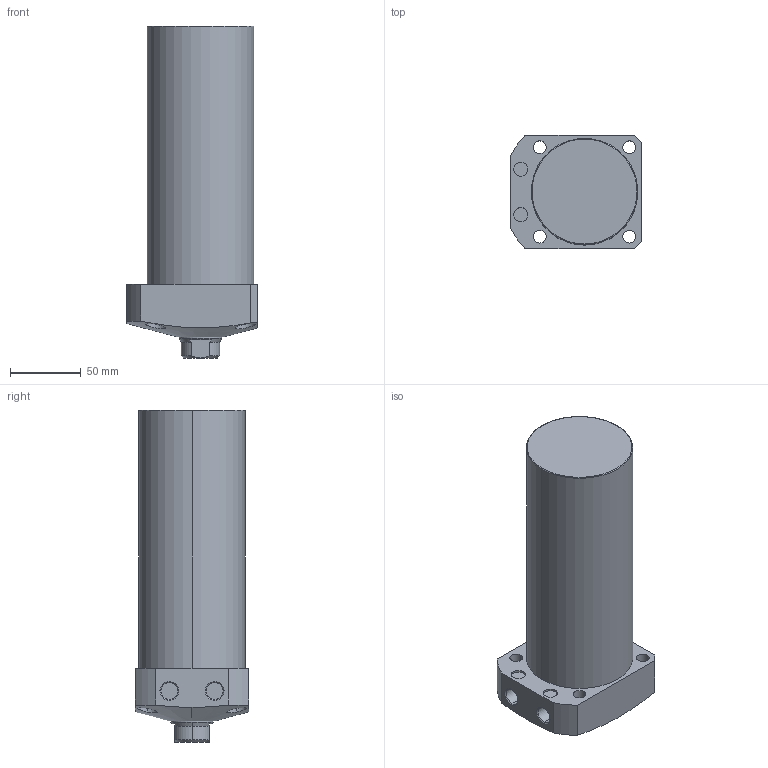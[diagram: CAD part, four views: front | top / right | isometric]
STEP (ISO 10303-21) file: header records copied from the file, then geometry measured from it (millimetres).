
FILE_DESCRIPTION (( 'STEP AP203' ), '1' );
FILE_NAME ('CLL-075CA-145.STEP', '2019-12-23T08:54:00', ( '' ), ( '' ), 'SwSTEP 2.0', 'SolidWorks 2015', '' );
FILE_SCHEMA (( 'CONFIG_CONTROL_DESIGN' ));
Length unit declared in the file: millimetre
Products named in the file (1): CLL-075CA-145
Bounding box: 92 x 80 x 234 mm (x, y, z)
Volume: 1023109.4 mm3; surface area: 75217.1 mm2
Topology: 1 solids, 1 shells, 74 faces, 171 edges, 108 vertices
Faces by surface type: cylinder 35, plane 22, cone 15, torus 2
Entity records: 2610 total; most frequent: CARTESIAN_POINT 815, DIRECTION 376, ORIENTED_EDGE 338, EDGE_CURVE 169, AXIS2_PLACEMENT_3D 156, VERTEX_POINT 108, EDGE_LOOP 93, CIRCLE 81
